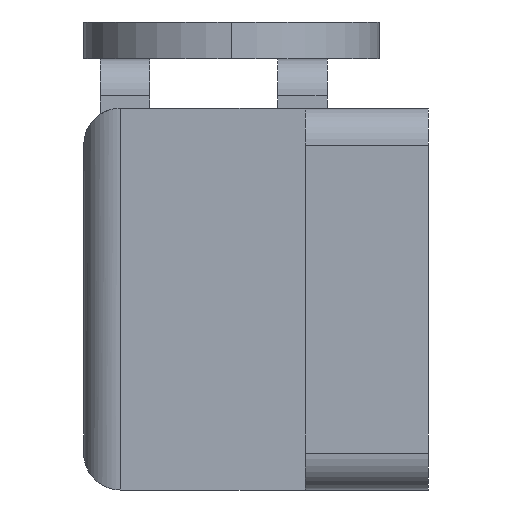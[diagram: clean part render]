
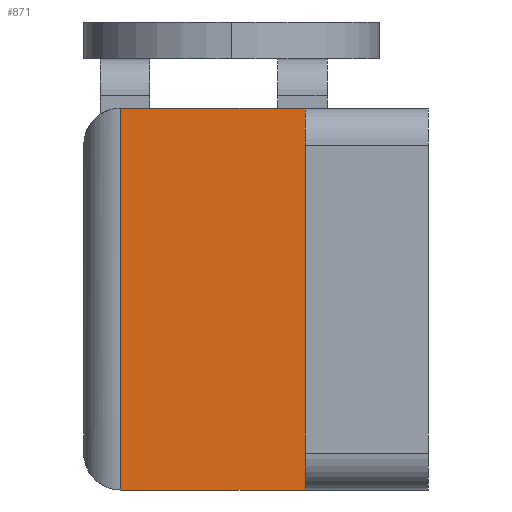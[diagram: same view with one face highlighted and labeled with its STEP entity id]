
A CAD part, left-side view. The second image highlights one B-rep face of the part: STEP entity #871.
In plain terms, the highlighted planar face has unit normal (-1, 0, 0).
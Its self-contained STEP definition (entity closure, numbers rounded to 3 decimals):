
#112 = VECTOR ( 'NONE', #271, 1000. ) ;
#154 = CARTESIAN_POINT ( 'NONE',  ( -7.133, 21.074, -9.727 ) ) ;
#225 = ORIENTED_EDGE ( 'NONE', *, *, #1530, .F. ) ;
#271 = DIRECTION ( 'NONE',  ( 0., 0., 1. ) ) ;
#332 = ORIENTED_EDGE ( 'NONE', *, *, #511, .T. ) ;
#362 = PLANE ( 'NONE',  #966 ) ;
#451 = CARTESIAN_POINT ( 'NONE',  ( -7.133, 21.074, -10.227 ) ) ;
#511 = EDGE_CURVE ( 'NONE', #883, #695, #1340, .T. ) ;
#517 = EDGE_CURVE ( 'NONE', #695, #525, #806, .T. ) ;
#525 = VERTEX_POINT ( 'NONE', #1117 ) ;
#663 = DIRECTION ( 'NONE',  ( 0., 0., -1. ) ) ;
#695 = VERTEX_POINT ( 'NONE', #154 ) ;
#698 = VECTOR ( 'NONE', #1253, 1000. ) ;
#720 = CARTESIAN_POINT ( 'NONE',  ( -7.133, 28.574, 5.773 ) ) ;
#723 = VECTOR ( 'NONE', #663, 1000. ) ;
#782 = EDGE_LOOP ( 'NONE', ( #225, #1722, #332, #1115 ) ) ;
#806 = LINE ( 'NONE', #451, #112 ) ;
#833 = CARTESIAN_POINT ( 'NONE',  ( -7.133, 28.574, -10.227 ) ) ;
#850 = DIRECTION ( 'NONE',  ( 0., -1., 0. ) ) ;
#871 = ADVANCED_FACE ( 'NONE', ( #874 ), #362, .T. ) ;
#874 = FACE_OUTER_BOUND ( 'NONE', #782, .T. ) ;
#883 = VERTEX_POINT ( 'NONE', #988 ) ;
#966 = AXIS2_PLACEMENT_3D ( 'NONE', #1210, #1028, #850 ) ;
#983 = DIRECTION ( 'NONE',  ( 0., -1., 0. ) ) ;
#988 = CARTESIAN_POINT ( 'NONE',  ( -7.133, 28.574, -9.727 ) ) ;
#1013 = LINE ( 'NONE', #833, #723 ) ;
#1028 = DIRECTION ( 'NONE',  ( -1., 0., 0. ) ) ;
#1115 = ORIENTED_EDGE ( 'NONE', *, *, #517, .T. ) ;
#1117 = CARTESIAN_POINT ( 'NONE',  ( -7.133, 21.074, 5.773 ) ) ;
#1155 = EDGE_CURVE ( 'NONE', #1545, #883, #1013, .T. ) ;
#1162 = CARTESIAN_POINT ( 'NONE',  ( -7.133, 30.074, -9.727 ) ) ;
#1210 = CARTESIAN_POINT ( 'NONE',  ( -7.133, 31.638, -10.227 ) ) ;
#1253 = DIRECTION ( 'NONE',  ( 0., -1., 0. ) ) ;
#1340 = LINE ( 'NONE', #1162, #1540 ) ;
#1437 = CARTESIAN_POINT ( 'NONE',  ( -7.133, 31.638, 5.773 ) ) ;
#1530 = EDGE_CURVE ( 'NONE', #1545, #525, #1613, .T. ) ;
#1540 = VECTOR ( 'NONE', #983, 1000. ) ;
#1545 = VERTEX_POINT ( 'NONE', #720 ) ;
#1613 = LINE ( 'NONE', #1437, #698 ) ;
#1722 = ORIENTED_EDGE ( 'NONE', *, *, #1155, .T. ) ;
